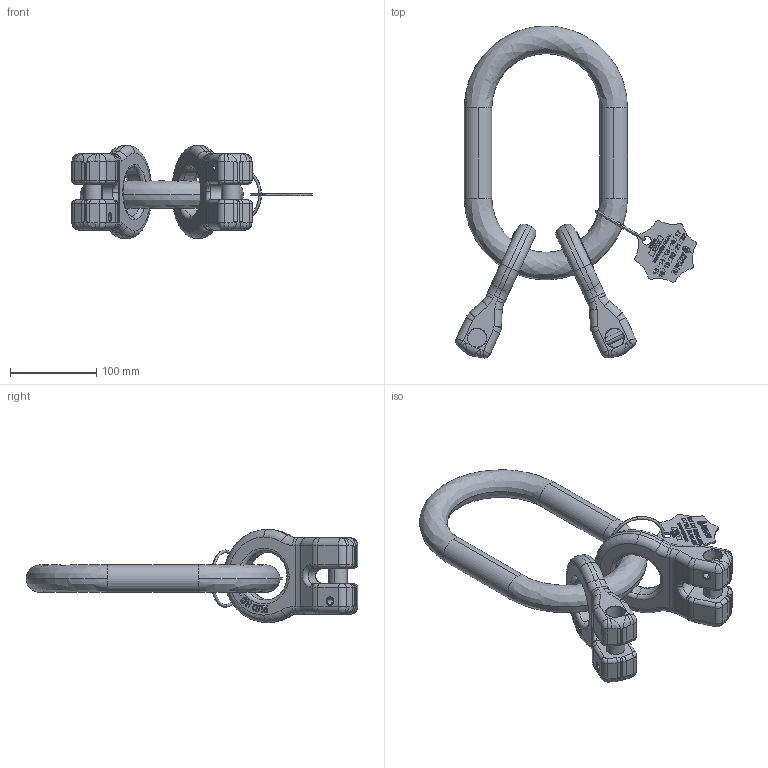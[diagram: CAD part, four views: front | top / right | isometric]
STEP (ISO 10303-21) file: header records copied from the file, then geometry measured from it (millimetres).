
FILE_DESCRIPTION (( 'STEP AP203' ), '1' );
FILE_NAME ('AK2-16.STEP', '2013-04-10T16:50:58', ( '' ), ( '' ), 'SwSTEP 2.0', 'SolidWorks 2012', '' );
FILE_SCHEMA (( 'CONFIG_CONTROL_DESIGN' ));
Products named in the file (4): AK2-16; Placa de identificação KZA-MOD.02; RG-16; ELO-32
Assembly tree (4 placements, depth 2):
  AK2-16
    ELO-32
    RG-16  x2
    Placa de identificação KZA-MOD.02
Bounding box: 278.47 x 384.28 x 107.82 mm (x, y, z)
Volume: 1172888.8 mm3; surface area: 176194.5 mm2
Topology: 11 solids, 11 shells, 1564 faces, 4083 edges, 2630 vertices
Faces by surface type: plane 776, bspline 419, cylinder 233, torus 80, cone 40, sphere 16
Entity records: 60638 total; most frequent: CARTESIAN_POINT 31415, ORIENTED_EDGE 6622, DIRECTION 4711, EDGE_CURVE 3311, LINE 2215, VECTOR 2215, VERTEX_POINT 2166, EDGE_LOOP 1365
